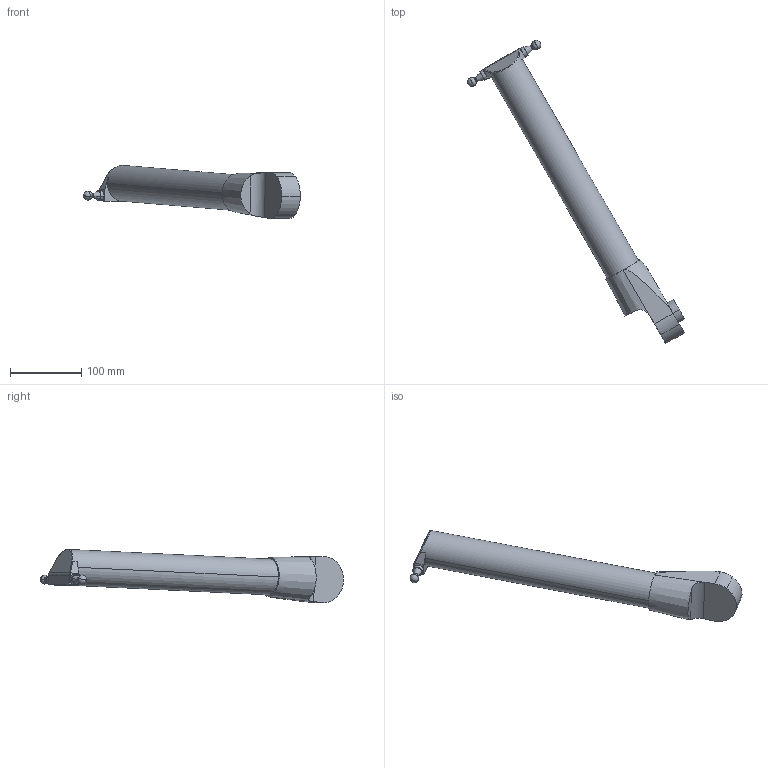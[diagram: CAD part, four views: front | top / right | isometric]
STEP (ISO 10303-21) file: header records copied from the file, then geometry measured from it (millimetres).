
FILE_DESCRIPTION (( 'STEP AP214' ), '1' );
FILE_NAME ('IRB365_1.5-1300_OmniCore_rev00_UPPER_ARM_3_CAD.step', '2025-09-09T11:52:44', ( '' ), ( '' ), 'SwSTEP 2.0', 'SolidWorks 2024', '' );
FILE_SCHEMA (( 'AUTOMOTIVE_DESIGN' ));
Length unit declared in the file: millimetre
Products named in the file (1): IRB365_1.5-1300_OmniCore_rev00_UPPER_ARM_3_CAD
Bounding box: 303.77 x 424.1 x 74.29 mm (x, y, z)
Volume: 953248.4 mm3; surface area: 83451.8 mm2
Topology: 1 solids, 1 shells, 86 faces, 201 edges, 111 vertices
Faces by surface type: plane 28, cylinder 27, torus 10, sphere 10, cone 6, bspline 5
Entity records: 3967 total; most frequent: CARTESIAN_POINT 1104, DIRECTION 439, ORIENTED_EDGE 374, EDGE_CURVE 187, AXIS2_PLACEMENT_3D 185, VERTEX_POINT 107, CIRCLE 103, EDGE_LOOP 90
